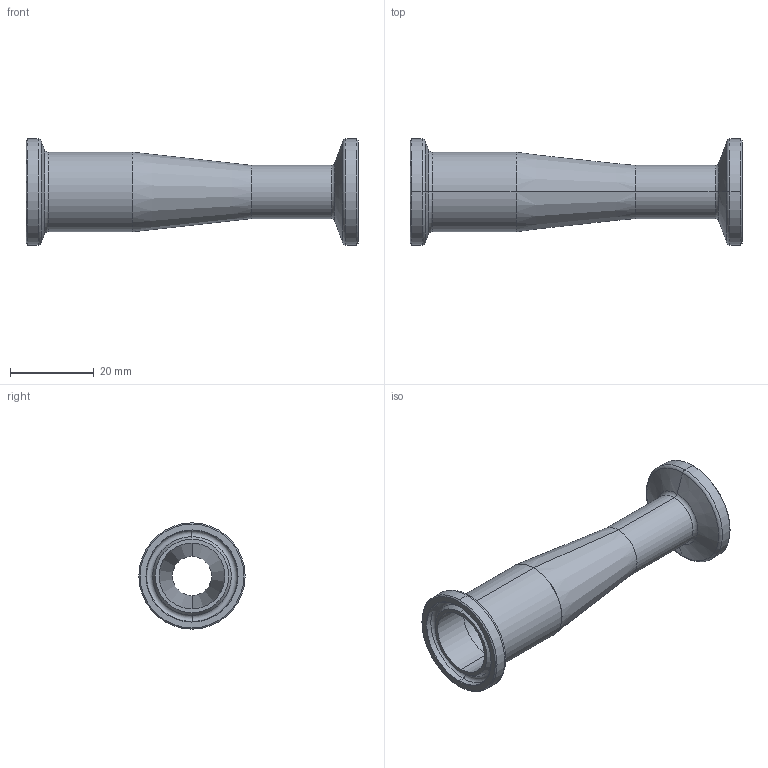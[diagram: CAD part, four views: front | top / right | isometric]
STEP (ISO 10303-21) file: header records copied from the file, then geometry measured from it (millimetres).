
FILE_DESCRIPTION (( 'STEP AP214' ), '1' );
FILE_NAME ('TEG31SCC6I.75x.5.STEP', '2016-05-29T14:36:27', ( 'eran' ), ( '' ), 'SwSTEP 2.0', 'SolidWorks 2016', '' );
FILE_SCHEMA (( 'AUTOMOTIVE_DESIGN' ));
Length unit declared in the file: millimetre
Products named in the file (1): TEG31SCC6I.75x.5
Bounding box: 79.38 x 25.4 x 25.4 mm (x, y, z)
Volume: 9004.1 mm3; surface area: 8569.4 mm2
Topology: 1 solids, 1 shells, 56 faces, 112 edges, 60 vertices
Faces by surface type: cone 20, cylinder 16, torus 16, plane 4
Entity records: 1478 total; most frequent: DIRECTION 302, CARTESIAN_POINT 229, ORIENTED_EDGE 224, AXIS2_PLACEMENT_3D 133, EDGE_CURVE 112, CIRCLE 76, VERTEX_POINT 60, EDGE_LOOP 60
